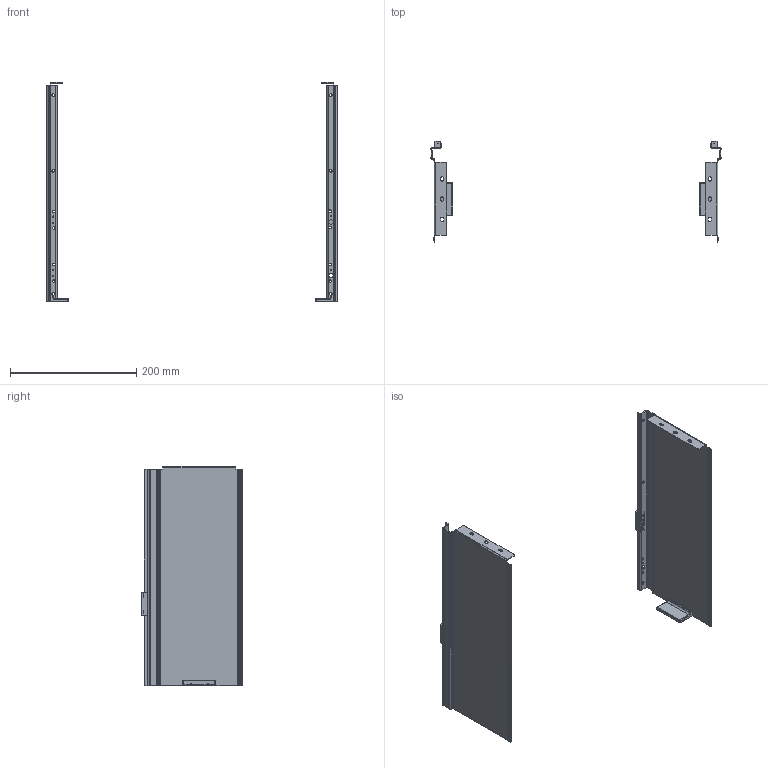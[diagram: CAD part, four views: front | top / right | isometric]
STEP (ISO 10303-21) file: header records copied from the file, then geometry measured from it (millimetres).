
FILE_DESCRIPTION(/* description */ (''),/* implementation_level */ '2;1');
FILE_NAME(/* name */ 'C:\Users\dmitruk\Documents\WORK\\X2\041D0410041F042004100412041B042F042E042904180415\X0\\ULTRA SLIM\\X2\0411043E043A043E04320438043D043A0438\X0\ Q-Type\Боковинки Q-Type-350 высокий.stp',/* time_stamp */ '2022-07-28T10:08:52+03:00',/* author */ ('dmitruk'),/* organization */ (''),/* preprocessor_version */ 'ST-DEVELOPER v16.5',/* originating_system */ 'Autodesk Inventor 2017',/* authorisation */ '');
FILE_SCHEMA (('AUTOMOTIVE_DESIGN { 1 0 10303 214 3 1 1 }'));
Length unit declared in the file: millimetre
Products named in the file (3): Боковинки Q-Type; Боковина USLIM; Боковина USLIM L
Assembly tree (2 placements, depth 2):
  Боковинки Q-Type
    Боковина USLIM
    Боковина USLIM L
Bounding box: 459.6 x 160.4 x 348 mm (x, y, z)
Volume: 189329.2 mm3; surface area: 270171.4 mm2
Topology: 8 solids, 8 shells, 480 faces, 1328 edges, 868 vertices
Faces by surface type: plane 210, cylinder 198, torus 36, bspline 28, sphere 8
Full cylindrical faces by diameter (mm): 2 x6, 4.2 x18, 6 x2, 7 x2, 8 x4
Entity records: 16210 total; most frequent: CARTESIAN_POINT 3164, DIRECTION 2702, ORIENTED_EDGE 2548, EDGE_CURVE 1274, AXIS2_PLACEMENT_3D 979, VERTEX_POINT 846, LINE 744, VECTOR 744
